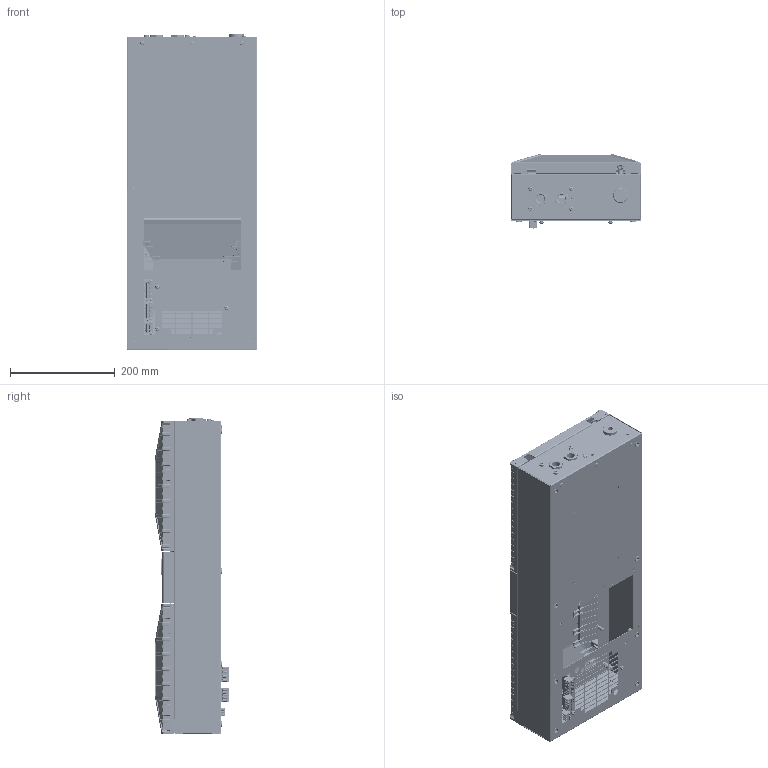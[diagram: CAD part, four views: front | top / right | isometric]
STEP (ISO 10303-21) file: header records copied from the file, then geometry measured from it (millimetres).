
FILE_DESCRIPTION((''),'2;1');
FILE_NAME('RK7506_COMPLETE_ASM_ASM','2022-10-27T11:55:36',('sant'),(''),'CREO PARAMETRIC BY PTC INC, 2018260','CREO PARAMETRIC BY PTC INC, 2018260','');
FILE_SCHEMA(('CONFIG_CONTROL_DESIGN'));
Products named in the file (54): RK7506_HOUSING_1; RK7506_HOUSING_MANUF_ASM_1_ASM; POPNUT_M6_HEX_CL_WITH_LIP_1_5MM; POPNUT_M4_HEX_CLOSED_STEEL_1; RK7506_INS_HOUSING_SIDE_1; RK7506_INS_HOUSING_TOP_1; POPNUT_M4_HEX_OPEN_STEEL_1; TOOTHED_WASHER_DIN6797_M4_1; EARTH_RING_1; WASHER_FLAT_A4_3_STEEL_1; RIVETED_1; RK7506_HOUSING_ASSEMBLY_ASM_1_ASM; RK7506_HOUSING_BASE_1; RK7506_HOUSING_BASE_SUPPORT_1; RK7506_HOUSING_BASE_ASM_1_ASM; REDUCER_G1-2_G-38_RN1238_1; RK85XX_CONN_PLATE_G3-8_GASKET_1; WASHER_DIN125_PA6-6_D4-3_1; SCREW_M4X12_ISO14583_A2_TORX_1; RK85XX_CONNECTION_PLATE_G3-8_AS_ASM; GROMMET_10_14_1; MC-PB7_62H04C-F_1; MC-RJ7_62H04P_1_1; MC-RJ7_62H04P_1_2; MC-RJ7_62H04P_1_ASM; MC-7_62-4-PUSH-IN-ASSEMBLY_ASM__ASM; ISO7045-M2_5X10-4_8_1; MC-PB5_08H05C-F_1; MC-RJ5_08H05P_1; MC-5-5-PUSH-IN-ASSEMBLY_ASM_1_ASM; MC-PB5_08H03C-F_1_1; MC-PB5_08H03C-F_1_2; MC-PB5_08H03C-F_1_ASM; MC-RJ5_08H03P_1; MC-PB5-3P_ASM_1_ASM; SCREW_DIN7500_M2-5X16_TX_Z-PL_1; RK7506_FAN_MODULE_ASM_1_ASM; CAREL_PJEZS0GB00_1; RK7506_CONTROLLER_MODULE_ASM_1_ASM; RK7506_SEALING_PANEL_MODULE_ASM_ASM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
Assembly tree (122 placements, depth 6):
  RK7506_COMPLETE_ASM_ASM
    RK7506_COMPLETE_ASM_1_ASM
      RK7506_HOUSING_ASSEMBLY_ASM_1_ASM
        RK7506_HOUSING_MANUF_ASM_1_ASM
          RK7506_HOUSING_1
        POPNUT_M6_HEX_CL_WITH_LIP_1_5MM  x12
        POPNUT_M4_HEX_CLOSED_STEEL_1  x9
        RK7506_INS_HOUSING_SIDE_1  x2
        RK7506_INS_HOUSING_TOP_1
        POPNUT_M4_HEX_OPEN_STEEL_1
        TOOTHED_WASHER_DIN6797_M4_1
        EARTH_RING_1
        WASHER_FLAT_A4_3_STEEL_1
        RIVETED_1
      RK7506_HOUSING_BASE_ASM_1_ASM
        RK7506_HOUSING_BASE_1
        RIVETED_1  x6
        RK7506_HOUSING_BASE_SUPPORT_1
        POPNUT_M4_HEX_CLOSED_STEEL_1  x2
        POPNUT_M6_HEX_CL_WITH_LIP_1_5MM  x2
      RK85XX_CONNECTION_PLATE_G3-8_AS_ASM
        REDUCER_G1-2_G-38_RN1238_1  x2
        RK85XX_CONN_PLATE_G3-8_GASKET_1
        WASHER_DIN125_PA6-6_D4-3_1  x4
        SCREW_M4X12_ISO14583_A2_TORX_1  x4
      GROMMET_10_14_1
      RK7506_FAN_MODULE_ASM_1_ASM
        MC-7_62-4-PUSH-IN-ASSEMBLY_ASM__ASM
          MC-PB7_62H04C-F_1
          MC-RJ7_62H04P_1_ASM
            MC-RJ7_62H04P_1_1
            MC-RJ7_62H04P_1_2
        ISO7045-M2_5X10-4_8_1  x6
        MC-5-5-PUSH-IN-ASSEMBLY_ASM_1_ASM
          MC-PB5_08H05C-F_1
          MC-RJ5_08H05P_1
        MC-PB5-3P_ASM_1_ASM
          MC-PB5_08H03C-F_1_ASM
            MC-PB5_08H03C-F_1_1
            MC-PB5_08H03C-F_1_2
          MC-RJ5_08H03P_1
        SCREW_M4X12_ISO14583_A2_TORX_1  x3
        SCREW_DIN7500_M2-5X16_TX_Z-PL_1  x2
      RK7506_SEALING_PANEL_MODULE_ASM_ASM
        RK7506_CONTROLLER_MODULE_ASM_1_ASM
          CAREL_PJEZS0GB00_1
      BARBED_ELBOW_HOSE_CONN_10MM_1
      RK7506_COVER_MID_ASSEMBLY_ASM_1_ASM
        RK7506_COVER_MID_1
        NG1-SIDE-STRIP_1  x2
        SCREW_ISO14581_M4X10_8-8_TORX_1  x4
        RK7506_MIDDLE_COVER_TIGHT_TAPE_  x2
      RK7506_COVER_BOT_LOW_HEIGHT_ASS_ASM
        DL-SINGLE_1  x2
        RK7506_COVER_BOTTOM_LOW_HEIGHT_
        DL-BLANK_1  x4
        SCREW_ISO14581_M4X10_8-8_TORX_1  x4
      RK7506_COVER_TOP_LOW_HEIGHT_ASM_ASM
        DL-SINGLE_1  x2
        RK7506_COVER_TOP_LOW_HEIGHT_1
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Bounding box: 250 x 143.36 x 606 mm (x, y, z)
Volume: 1195249.4 mm3; surface area: 1513134.5 mm2
Topology: 105 solids, 189 shells, 13681 faces, 37724 edges, 24431 vertices
Faces by surface type: plane 8667, cylinder 3293, cone 718, bspline 469, torus 245, extrusion 213, sphere 76
Entity records: 292354 total; most frequent: CARTESIAN_POINT 85164, ORIENTED_EDGE 44695, DIRECTION 39602, EDGE_CURVE 22462, VECTOR 16698, LINE 16485, VERTEX_POINT 14751, AXIS2_PLACEMENT_3D 11452
